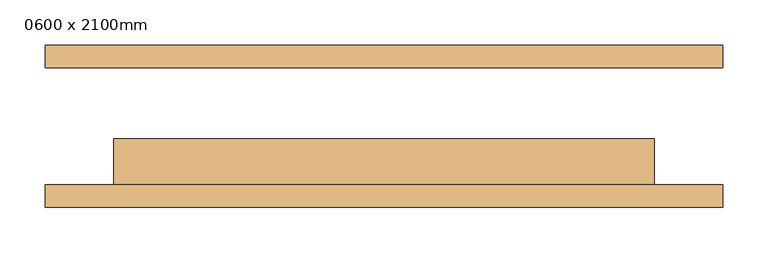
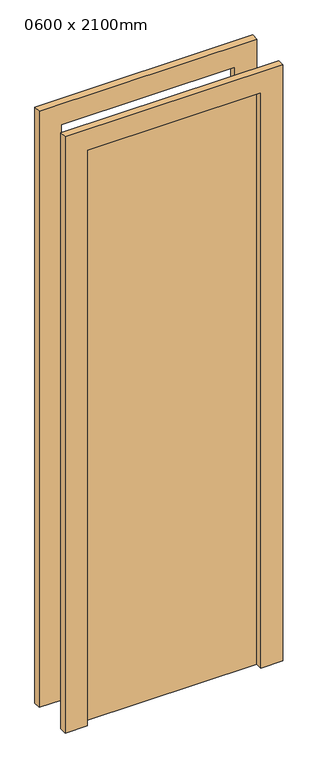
"""IFC4 building model written with IfcOpenShell, lengths in millimetres: door geometry, M_Folha única : 0600 x 2100mm."""

from ifc_helpers import new_model, si_unit, frame, origin, origin_with_axes, place, context, project, spatial, polyline, outline, extrude, source, transform, mapped, element, save


def door_0600_x_2100mm_27d3e4cd(model_context):
    return source(origin(), model_context, "Body", "SweptSolid", [
        extrude(outline(polyline([(2176.0, -376.0), (0.0, -376.0), (0.0, -300.0), (2100.0, -300.0), (2100.0, 300.0), (0.0, 300.0), (0.0, 376.0), (2176.0, 376.0), (2176.0, -376.0)])), frame((0.0, -90.0, 0.0), z_axis=(0.0, 1.0, 0.0), x_axis=(0.0, 0.0, 1.0)), (0.0, 0.0, 1.0), 25.0),
        extrude(outline(polyline([(2176.0, 376.0), (2176.0, -376.0), (0.0, -376.0), (0.0, -300.0), (2100.0, -300.0), (2100.0, 300.0), (0.0, 300.0), (0.0, 376.0), (2176.0, 376.0)])), frame((0.0, 65.0, 0.0), z_axis=(0.0, 1.0, 0.0), x_axis=(0.0, 0.0, 1.0)), (0.0, 0.0, 1.0), 25.0),
        extrude(outline(polyline([(300.0, -14.0), (300.0, -65.0), (-300.0, -65.0), (-300.0, -14.0), (300.0, -14.0)])), origin_with_axes(), (0.0, 0.0, 1.0), 2100.0),
    ])


if __name__ == "__main__":
    model = new_model("IFC4")
    model_context = context("Model", 3, world=origin())
    ifc_project = project(units=[si_unit("LENGTHUNIT", "METRE", prefix="MILLI")], contexts=[model_context])
    site = spatial("IfcSite", under=ifc_project)
    building = spatial("IfcBuilding", under=site)
    placement = place(None, origin())
    door_0600_x_2100mm_shape = door_0600_x_2100mm_27d3e4cd(model_context)
    element("IfcDoor", 1, ObjectType="M_Folha única : 0600 x 2100mm", at=placement, inside=building, context=model_context, shape_type="MappedRepresentation", body=[
        mapped(door_0600_x_2100mm_shape, transform((0.0, 0.0, 0.0), x_axis=(1.0, 0.0, 0.0), y_axis=(0.0, 1.0, 0.0), z_axis=(0.0, 0.0, 1.0))),
    ])
    save(model, "model.ifc")
